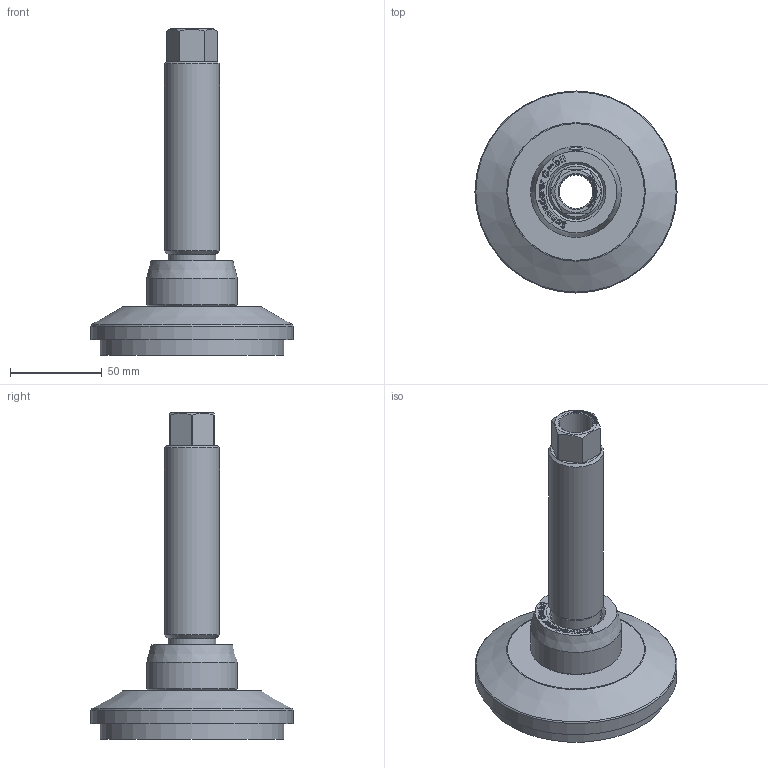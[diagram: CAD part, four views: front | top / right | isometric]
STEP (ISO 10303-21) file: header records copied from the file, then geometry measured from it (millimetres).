
FILE_DESCRIPTION(/* description */ ('JCM 100C - M30 - S6'),/* implementation_level */ '2;1');
FILE_NAME(/* name */ 'P:\CAD ab 2015\STP - Internetseite\JCMHD\JCMHD 100C - S12 - HSD145.stp',/* time_stamp */ '2021-10-01T09:21:53+02:00',/* author */ ('torsten'),/* organization */ ('Schwaderer GmbH Robert-Bosch-Str. 10 71563 Affalterbach'),/* preprocessor_version */ 'ST-DEVELOPER v18.1',/* originating_system */ 'Autodesk Inventor LT',/* authorisation */ '');
FILE_SCHEMA (('CONFIG_CONTROL_DESIGN'));
Length unit declared in the file: millimetre
Products named in the file (1): JCMHD 100C - S6 - HSD145
Bounding box: 110 x 110 x 177.9 mm (x, y, z)
Volume: 284782.4 mm3; surface area: 76110.9 mm2
Topology: 4 solids, 4 shells, 479 faces, 1302 edges, 871 vertices
Faces by surface type: plane 243, bspline 192, cylinder 23, cone 17, torus 3, sphere 1
Full cylindrical faces by diameter (mm): 5 x1, 18.5 x2, 25 x1, 26 x1, 26.5 x1, 27.5 x1, 28.5 x2, 30 x2, 31 x1, 49.5 x1, 100 x2, 110 x1
Entity records: 16618 total; most frequent: CARTESIAN_POINT 5625, ORIENTED_EDGE 2604, DIRECTION 1597, EDGE_CURVE 1302, VERTEX_POINT 871, LINE 781, VECTOR 781, EDGE_LOOP 529
